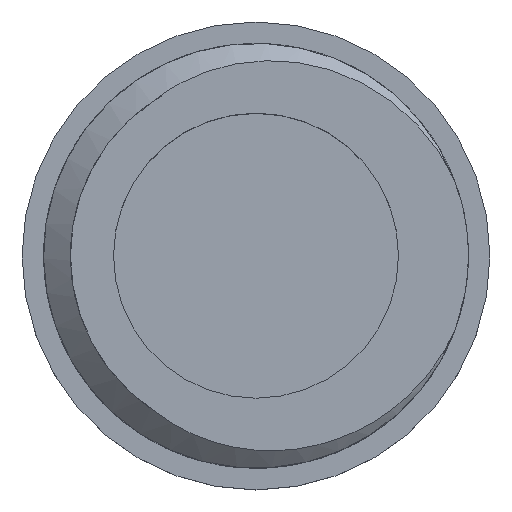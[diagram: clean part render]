
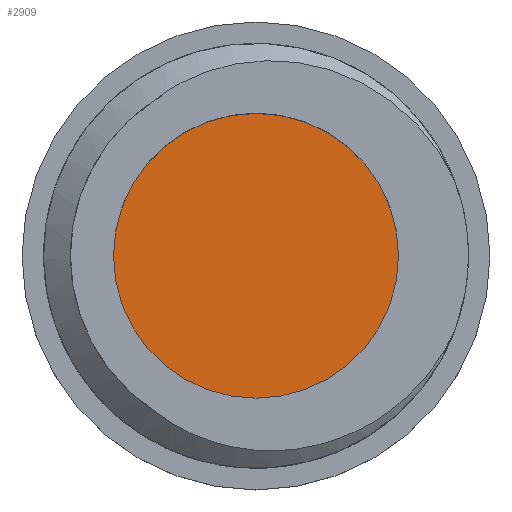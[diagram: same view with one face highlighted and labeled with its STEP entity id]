
A CAD part, top view. The second image highlights one B-rep face of the part: STEP entity #2909.
In plain terms, the highlighted planar face has unit normal (0, 0, 1).
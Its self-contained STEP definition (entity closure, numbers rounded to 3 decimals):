
#2809 = CYLINDRICAL_SURFACE('',#2810,2.65);
#2810 = AXIS2_PLACEMENT_3D('',#2811,#2812,#2813);
#2811 = CARTESIAN_POINT('',(0.,0.,0.96));
#2812 = DIRECTION('',(-0.,-0.,-1.));
#2813 = DIRECTION('',(1.,0.,0.));
#2858 = EDGE_CURVE('',#2859,#2859,#2861,.T.);
#2859 = VERTEX_POINT('',#2860);
#2860 = CARTESIAN_POINT('',(2.65,0.,0.96));
#2861 = SURFACE_CURVE('',#2862,(#2867,#2874),.PCURVE_S1.);
#2862 = CIRCLE('',#2863,2.65);
#2863 = AXIS2_PLACEMENT_3D('',#2864,#2865,#2866);
#2864 = CARTESIAN_POINT('',(0.,0.,0.96));
#2865 = DIRECTION('',(0.,0.,1.));
#2866 = DIRECTION('',(1.,0.,0.));
#2867 = PCURVE('',#2809,#2868);
#2868 = DEFINITIONAL_REPRESENTATION('',(#2869),#2873);
#2869 = LINE('',#2870,#2871);
#2870 = CARTESIAN_POINT('',(-0.,0.));
#2871 = VECTOR('',#2872,1.);
#2872 = DIRECTION('',(-1.,0.));
#2873 = ( GEOMETRIC_REPRESENTATION_CONTEXT(2) 
PARAMETRIC_REPRESENTATION_CONTEXT() REPRESENTATION_CONTEXT('2D SPACE',''
  ) );
#2874 = PCURVE('',#2875,#2880);
#2875 = PLANE('',#2876);
#2876 = AXIS2_PLACEMENT_3D('',#2877,#2878,#2879);
#2877 = CARTESIAN_POINT('',(0.,0.,0.96)
  );
#2878 = DIRECTION('',(0.,0.,1.));
#2879 = DIRECTION('',(1.,0.,-0.));
#2880 = DEFINITIONAL_REPRESENTATION('',(#2881),#2885);
#2881 = CIRCLE('',#2882,2.65);
#2882 = AXIS2_PLACEMENT_2D('',#2883,#2884);
#2883 = CARTESIAN_POINT('',(0.,0.));
#2884 = DIRECTION('',(1.,0.));
#2885 = ( GEOMETRIC_REPRESENTATION_CONTEXT(2) 
PARAMETRIC_REPRESENTATION_CONTEXT() REPRESENTATION_CONTEXT('2D SPACE',''
  ) );
#2909 = ADVANCED_FACE('',(#2910),#2875,.T.);
#2910 = FACE_BOUND('',#2911,.T.);
#2911 = EDGE_LOOP('',(#2912));
#2912 = ORIENTED_EDGE('',*,*,#2858,.T.);
